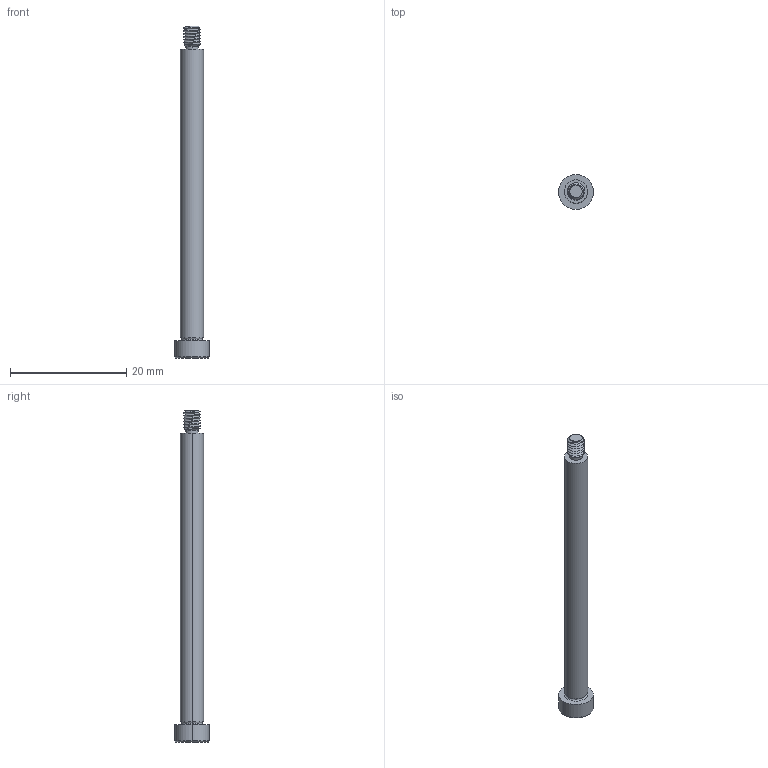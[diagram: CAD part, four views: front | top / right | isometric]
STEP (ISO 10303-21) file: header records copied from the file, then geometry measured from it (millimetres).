
FILE_DESCRIPTION (( 'STEP AP203' ), '1' );
FILE_NAME ('P0130.040-050-B2.step', '2021-11-09T21:09:06', ( '' ), ( '' ), 'SwSTEP 2.0', 'SolidWorks 2019', '' );
FILE_SCHEMA (( 'CONFIG_CONTROL_DESIGN' ));
Length unit declared in the file: millimetre
Products named in the file (1): P0130.040-050-B2
Bounding box: 6 x 6 x 57 mm (x, y, z)
Volume: 723.7 mm3; surface area: 812.7 mm2
Topology: 1 solids, 1 shells, 54 faces, 124 edges, 73 vertices
Faces by surface type: cylinder 18, plane 16, cone 14, torus 4, bspline 2
Entity records: 2218 total; most frequent: CARTESIAN_POINT 1016, ORIENTED_EDGE 244, DIRECTION 229, EDGE_CURVE 122, AXIS2_PLACEMENT_3D 93, VERTEX_POINT 73, EDGE_LOOP 57, FACE_OUTER_BOUND 54
